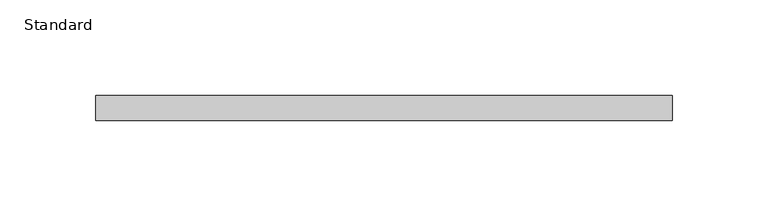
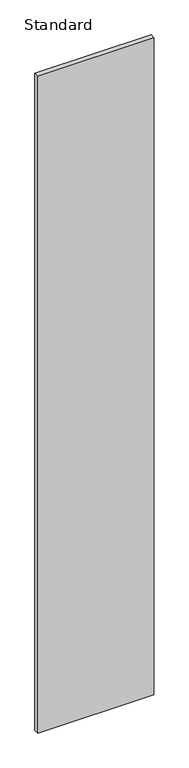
"""IFC4 building model written with IfcOpenShell, lengths in millimetres: furniture geometry, X_Partition-Compact Laminate-Duracube-Rectangular : Standard."""

from ifc_helpers import new_model, si_unit, frame, origin, place, context, project, spatial, polyline, outline, extrude, source, transform, mapped, element, save


def standard_0994168a(model_context):
    return source(origin(), model_context, "Body", "SweptSolid", [
        extrude(outline(polyline([(195.2003264, 0.0), (195.2003264, -13.0), (-105.7996736, -13.0), (-105.7996736, 0.0), (195.2003264, 0.0)])), frame((0.0, 0.0, 200.0), z_axis=(0.0, 0.0, 1.0), x_axis=(1.0, 0.0, 0.0)), (0.0, 0.0, 1.0), 1799.0),
    ])


if __name__ == "__main__":
    model = new_model("IFC4")
    model_context = context("Model", 3, world=origin())
    ifc_project = project(units=[si_unit("LENGTHUNIT", "METRE", prefix="MILLI")], contexts=[model_context])
    site = spatial("IfcSite", under=ifc_project)
    building = spatial("IfcBuilding", under=site)
    placement = place(None, origin())
    standard_shape = standard_0994168a(model_context)
    element("IfcFurniture", 1, ObjectType="X_Partition-Compact Laminate-Duracube-Rectangular : Standard", at=placement, inside=building, context=model_context, shape_type="MappedRepresentation", body=[
        mapped(standard_shape, transform((0.0, 0.0, 0.0), x_axis=(1.0, 0.0, 0.0), y_axis=(0.0, 1.0, 0.0), z_axis=(0.0, 0.0, 1.0))),
    ])
    save(model, "model.ifc")
